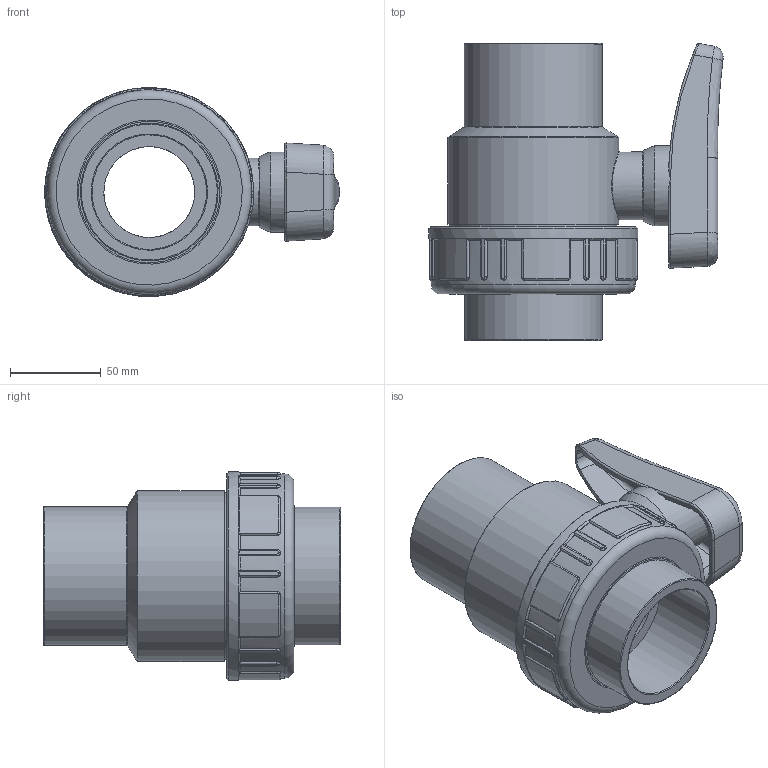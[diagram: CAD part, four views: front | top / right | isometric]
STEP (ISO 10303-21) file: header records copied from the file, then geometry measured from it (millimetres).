
FILE_DESCRIPTION(/* description */ (''),/* implementation_level */ '2;1');
FILE_NAME(/* name */ 'C:\Users\POLYPIPE\Desktop\DATASET INVENTOR\LIBRERIA EFFAST\3D_VALVOLE\3D_VALVOLE A SFERA\3D_SV\3D_BDRSVD\3D_BDRSVD0630.stp',/* time_stamp */ '2018-01-23T16:37:56+01:00',/* author */ ('POLYPIPE'),/* organization */ (''),/* preprocessor_version */ 'ST-DEVELOPER v16.1',/* originating_system */ 'Autodesk Inventor 2016',/* authorisation */ '');
FILE_SCHEMA (('CONFIG_CONTROL_DESIGN'));
Length unit declared in the file: centimetre
Products named in the file (1): 3D_BDRSVD0630
Bounding box: 161.87 x 163.34 x 114.94 mm (x, y, z)
Volume: 719464.9 mm3; surface area: 147984.5 mm2
Topology: 2 solids, 2 shells, 348 faces, 891 edges, 551 vertices
Faces by surface type: cylinder 115, plane 101, bspline 99, torus 22, sphere 7, cone 4
Full cylindrical faces by diameter (mm): 25.1 x1, 37.3 x1, 44 x1, 50 x2, 63 x2, 75.8 x1, 76 x1, 77.8 x1, 79.3 x1, 88.9 x1, 91.7 x1, 94 x1, 96.5 x1, 112.4 x1, 115 x1
Entity records: 33747 total; most frequent: CARTESIAN_POINT 25567, ORIENTED_EDGE 1708, DIRECTION 1464, EDGE_CURVE 854, AXIS2_PLACEMENT_3D 581, VERTEX_POINT 544, EDGE_LOOP 392, STYLED_ITEM 350
